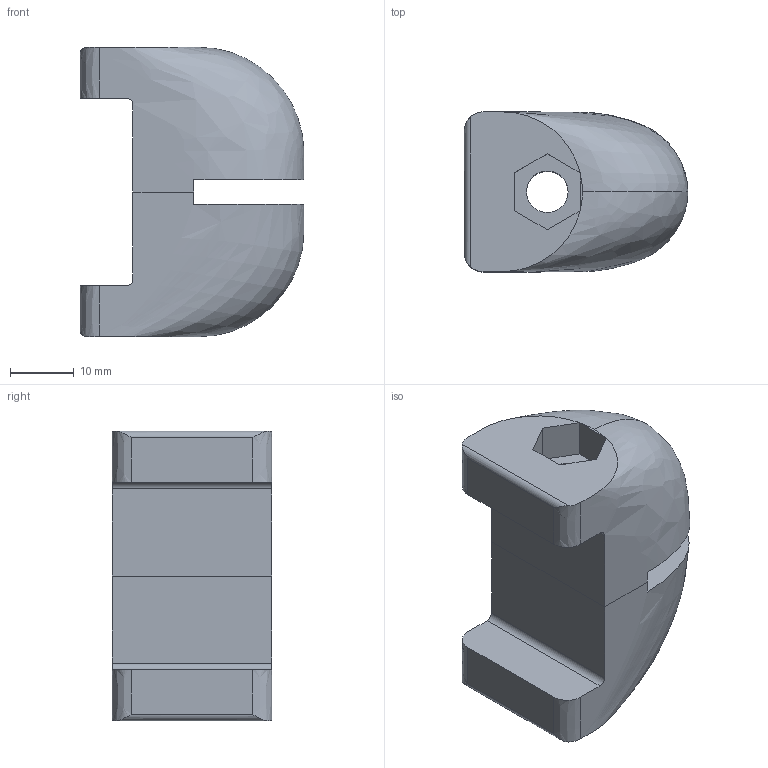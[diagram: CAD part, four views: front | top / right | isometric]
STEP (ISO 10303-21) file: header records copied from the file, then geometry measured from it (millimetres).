
FILE_DESCRIPTION (( 'STEP AP214' ), '1' );
FILE_NAME ('L19134A-L19134A 0.step', '2024-12-03T16:24:15', ( '' ), ( '' ), 'SwSTEP 2.0', 'SolidWorks 2023', '' );
FILE_SCHEMA (( 'AUTOMOTIVE_DESIGN' ));
Length unit declared in the file: millimetre
Products named in the file (2): L19134A; L19134A-L19134A 0
Assembly tree (2 placements, depth 2):
  L19134A-L19134A 0
    L19134A  x2
Bounding box: 35 x 25 x 45.3 mm (x, y, z)
Volume: 22518.4 mm3; surface area: 7629 mm2
Topology: 2 solids, 2 shells, 44 faces, 118 edges, 78 vertices
Faces by surface type: plane 30, bspline 8, cylinder 6
Full cylindrical faces by diameter (mm): 6.5 x2
Entity records: 1335 total; most frequent: CARTESIAN_POINT 751, ORIENTED_EDGE 114, DIRECTION 105, EDGE_CURVE 57, VERTEX_POINT 38, VECTOR 35, AXIS2_PLACEMENT_3D 35, LINE 35
